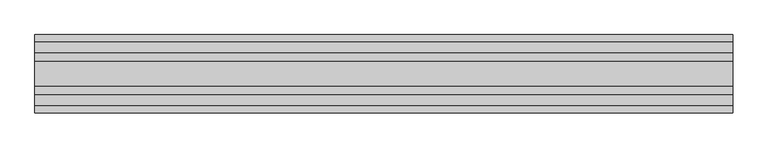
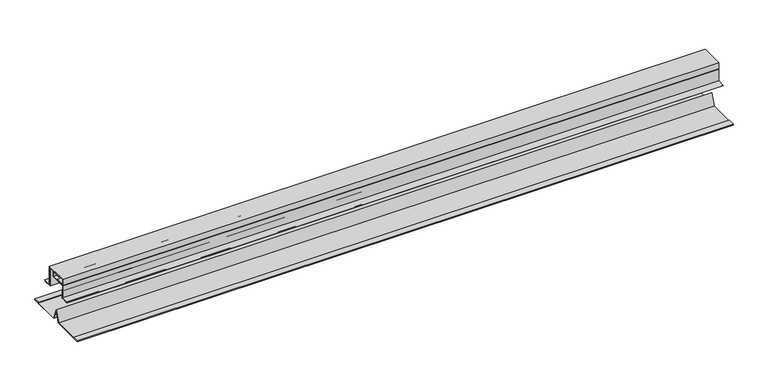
"""IFC4 building model written with IfcOpenShell, lengths in millimetres: proxy geometry, АК4_2 Деформационный шов на фасаде : АК4_2 Деформационный шов на фасаде."""

from ifc_helpers import new_model, si_unit, point, frame, frame_2d, origin, place, context, project, spatial, polyline, circle_curve, trimmed, segment, composite_curve, outline, extrude, source, transform, mapped, element, save


def generic_models_5184f7a0(model_context):
    return source(origin(), model_context, "Body", "SweptSolid", [
        extrude(outline(composite_curve([segment(polyline([(-104.5, -36.9999366), (-104.5, -34.9999366), (-82.0, -34.9999366)]), True, "CONTINUOUS"), segment(trimmed(circle_curve(frame_2d((-82.0, -34.4999366)), 0.5), [point((-82.0, -34.9999366))], [point((-81.5, -34.4999366))], True, "CARTESIAN"), True, "CONTINUOUS"), segment(polyline([(-81.5, -34.4999366), (-81.5, -11.9999366), (-79.5, -11.9999366), (-79.5, -34.4999366)]), True, "CONTINUOUS"), segment(trimmed(circle_curve(frame_2d((-82.0, -34.4999366)), 2.5), [point((-79.5, -34.4999366))], [point((-82.0, -36.9999366))], False, "CARTESIAN"), True, "CONTINUOUS"), segment(polyline([(-82.0, -36.9999366), (-104.5, -36.9999366)]), True, "CONTINUOUS")], self_intersect=False)), frame((0.0, 0.0, 0.0), z_axis=(1.0, 0.0, 0.0), x_axis=(0.0, 1.0, 0.0)), (0.0, 0.0, 1.0), 2000.0),
        extrude(outline(polyline([(-15.5, -37.0), (-15.5, 22.0), (-63.5, 22.0), (-63.5, 24.0), (-13.5, 24.0), (-13.5, -35.0), (9.5, -35.0), (9.5, -37.0), (-15.5, -37.0)])), frame((0.0, 0.0, 0.0), z_axis=(1.0, 0.0, 0.0), x_axis=(0.0, 1.0, 0.0)), (0.0, 0.0, 1.0), 2000.0),
        extrude(outline(polyline([(-32.5, 21.0), (-62.5, 21.0), (-62.5, 22.0), (-31.5, 22.0), (-31.5, 3.0), (-81.5, 3.0), (-81.5, -34.9999366), (-107.5, -34.9999366), (-107.5, -33.9999366), (-82.5, -33.9999366), (-82.5, 4.0), (-32.5, 4.0), (-32.5, 21.0)])), frame((0.0, 0.0, 0.0), z_axis=(1.0, 0.0, 0.0), x_axis=(0.0, 1.0, 0.0)), (0.0, 0.0, 1.0), 2000.0),
        extrude(outline(polyline([(12.5, -34.0), (12.5, -35.0), (-13.5, -35.0), (-13.5, 24.0), (-81.5, 24.0), (-81.5, 6.0), (-52.5, 6.0), (-52.5, 5.0), (-82.5, 5.0), (-82.5, 25.0), (-12.5, 25.0), (-12.5, -34.0), (12.5, -34.0)])), frame((0.0, 0.0, 0.0), z_axis=(1.0, 0.0, 0.0), x_axis=(0.0, 1.0, 0.0)), (0.0, 0.0, 1.0), 2000.0),
        extrude(outline(polyline([(64.470705, -130.0), (-35.529295, -130.0), (-47.5, -97.1107583), (-59.470705, -130.0), (-159.470705, -130.0), (-159.470705, -127.0), (-139.470705, -127.0), (-139.470705, -128.0), (-158.470705, -128.0), (-158.470705, -129.0), (-60.1709126, -129.0), (-47.5, -94.1869539), (-34.8290874, -129.0), (63.470705, -129.0), (63.470705, -128.0), (44.470705, -128.0), (44.470705, -127.0), (64.470705, -127.0), (64.470705, -130.0)])), frame((0.0, 0.0, 0.0), z_axis=(1.0, 0.0, 0.0), x_axis=(0.0, 1.0, 0.0)), (0.0, 0.0, 1.0), 2000.0),
    ])


if __name__ == "__main__":
    model = new_model("IFC4")
    model_context = context("Model", 3, world=origin())
    ifc_project = project(units=[si_unit("LENGTHUNIT", "METRE", prefix="MILLI")], contexts=[model_context])
    site = spatial("IfcSite", under=ifc_project)
    building = spatial("IfcBuilding", under=site)
    placement = place(None, origin())
    generic_models_shape = generic_models_5184f7a0(model_context)
    element("IfcBuildingElementProxy", 1, Name="АК4_2 Деформационный шов на фасаде : АК4_2 Деформационный шов на фасаде", ObjectType="АК4_2 Деформационный шов на фасаде : АК4_2 Деформационный шов на фасаде", at=placement, inside=building, context=model_context, shape_type="MappedRepresentation", body=[
        mapped(generic_models_shape, transform((0.0, 0.0, 0.0), x_axis=(1.0, 0.0, 0.0), y_axis=(0.0, 1.0, 0.0), z_axis=(0.0, 0.0, 1.0))),
    ])
    save(model, "model.ifc")
